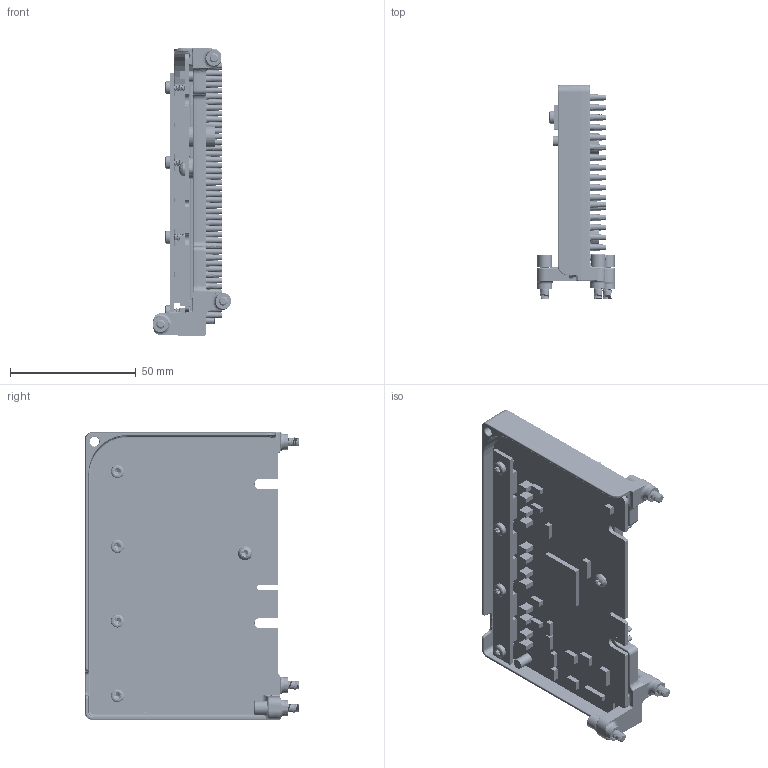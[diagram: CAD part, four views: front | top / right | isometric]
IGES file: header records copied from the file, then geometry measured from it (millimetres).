
Start section: SolidWorks IGES file using analytic representation for surfaces
Global section: file name: C:\TeknicPDM\Drives\Meridian\Customer Models\ISC-M23B with Monolithic Current Sensors.IGS; native system: SolidWorks 2020; preprocessor: SolidWorks 2020; author: zeb_koch; date: 230329.112925; units: millimetre
Bounding box: 30.86 x 85.12 x 114.3 mm (x, y, z)
Surface area: 65998.5 mm2 (no closed solid volume)
Topology: 0 solids, 0 shells, 6370 faces, 70436 edges, 70346 vertices
Faces by surface type: revolution 3774, bspline 2596
